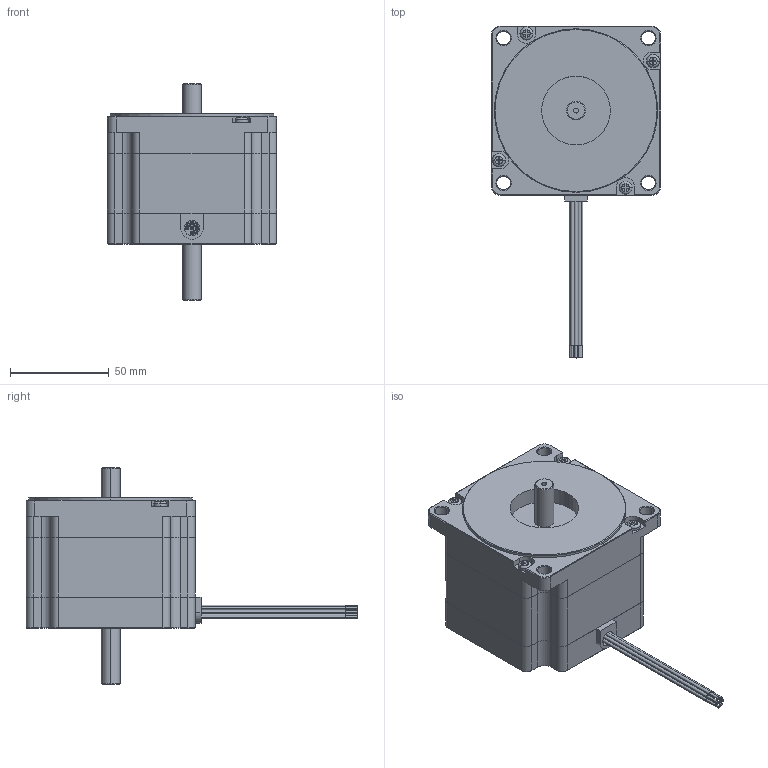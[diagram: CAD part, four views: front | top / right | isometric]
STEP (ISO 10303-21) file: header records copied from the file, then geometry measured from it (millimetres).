
FILE_DESCRIPTION (( 'STEP AP214' ), '1' );
FILE_NAME ('34YSG008D-LW8.STEP', '2010-06-17T22:45:24', ( 'Tim Raines' ), ( 'Anaheim Automation' ), 'SwSTEP 2.0', 'SolidWorks 2010', '' );
FILE_SCHEMA (( 'AUTOMOTIVE_DESIGN' ));
Length unit declared in the file: inch
Products named in the file (1): 34YSG008D-LW8
Bounding box: 85.85 x 168.4 x 109.98 mm (x, y, z)
Volume: 441618 mm3; surface area: 44013.4 mm2
Topology: 1 solids, 1 shells, 363 faces, 907 edges, 570 vertices
Faces by surface type: plane 171, cylinder 122, cone 62, torus 8
Entity records: 15613 total; most frequent: CARTESIAN_POINT 2085, DIRECTION 1885, ORIENTED_EDGE 1790, EDGE_CURVE 895, AXIS2_PLACEMENT_3D 682, VERTEX_POINT 570, VECTOR 521, LINE 521
